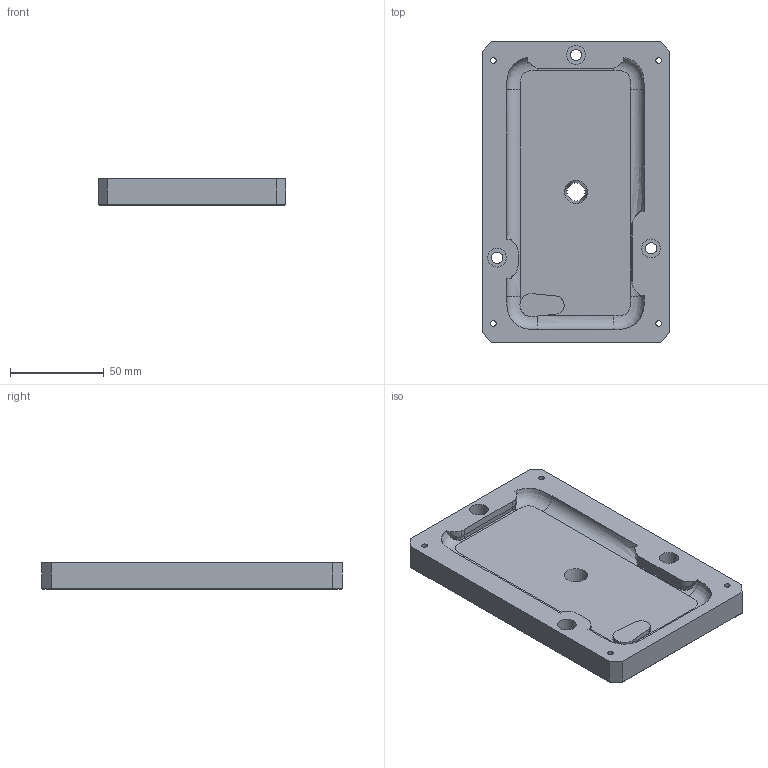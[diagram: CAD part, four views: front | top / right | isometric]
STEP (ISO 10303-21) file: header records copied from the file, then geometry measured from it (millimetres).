
FILE_DESCRIPTION(/* description */ (''),/* implementation_level */ '2;1');
FILE_NAME(/* name */ 'Topside.step',/* time_stamp */ '2023-06-01T14:19:59+02:00',/* author */ (''),/* organization */ (''),/* preprocessor_version */ 'ST-DEVELOPER v19.2',/* originating_system */ 'Autodesk Translation Framework v12.4.0.73',/* authorisation */ '');
FILE_SCHEMA (('AUTOMOTIVE_DESIGN { 1 0 10303 214 3 1 1 }'));
Length unit declared in the file: millimetre
Products named in the file (1): Topside
Bounding box: 100 x 160 x 14 mm (x, y, z)
Volume: 160431.2 mm3; surface area: 42470.5 mm2
Topology: 1 solids, 1 shells, 86 faces, 222 edges, 142 vertices
Faces by surface type: bspline 33, plane 32, cylinder 13, cone 8
Full cylindrical faces by diameter (mm): 3 x4, 6 x3, 10 x3
Entity records: 20686 total; most frequent: CARTESIAN_POINT 18738, ORIENTED_EDGE 444, DIRECTION 290, EDGE_CURVE 222, VERTEX_POINT 142, LINE 110, VECTOR 110, EDGE_LOOP 106
